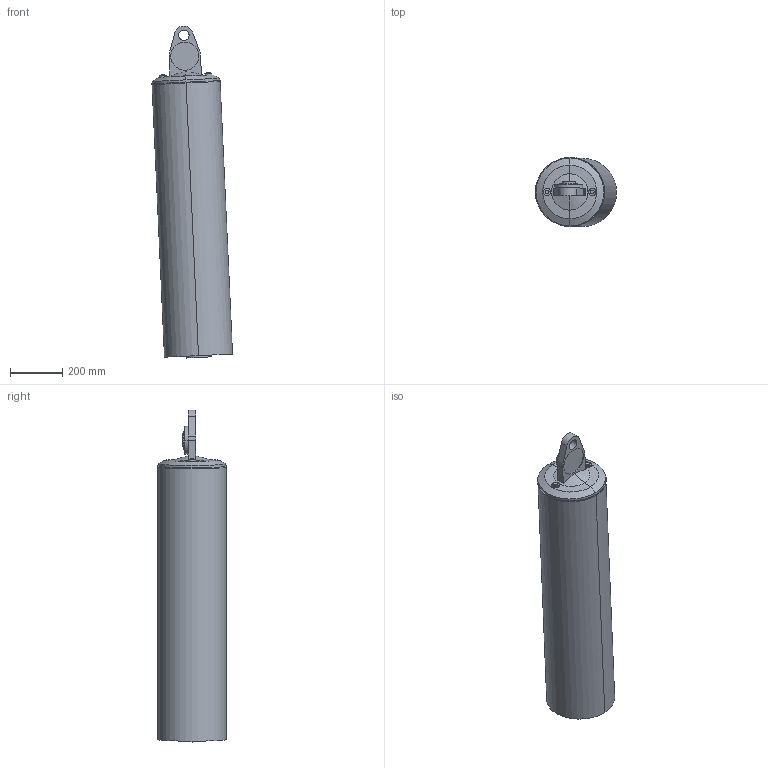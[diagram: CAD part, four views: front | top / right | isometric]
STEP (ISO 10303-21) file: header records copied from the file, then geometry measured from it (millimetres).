
FILE_DESCRIPTION (( 'STEP AP203' ), '1' );
FILE_NAME ('IRB8700_800-350_IRC5_rev00_BAL-A-LEFT_CAD.STEP', '2015-06-04T08:12:46', ( 'ABB' ), ( 'ABB' ), 'SwSTEP 2.0', 'SolidWorks 2014', '' );
FILE_SCHEMA (( 'CONFIG_CONTROL_DESIGN' ));
Length unit declared in the file: millimetre
Products named in the file (1): IRB8700_800-350_IRC5_rev00_BAL-A-LEFT_CAD
Bounding box: 309.37 x 264 x 1267.17 mm (x, y, z)
Volume: 54400573.1 mm3; surface area: 1223408.3 mm2
Topology: 1 solids, 1 shells, 57 faces, 122 edges, 78 vertices
Faces by surface type: cylinder 31, plane 18, cone 8
Entity records: 1885 total; most frequent: CARTESIAN_POINT 524, DIRECTION 290, ORIENTED_EDGE 244, EDGE_CURVE 122, AXIS2_PLACEMENT_3D 120, VERTEX_POINT 78, EDGE_LOOP 70, CIRCLE 62
